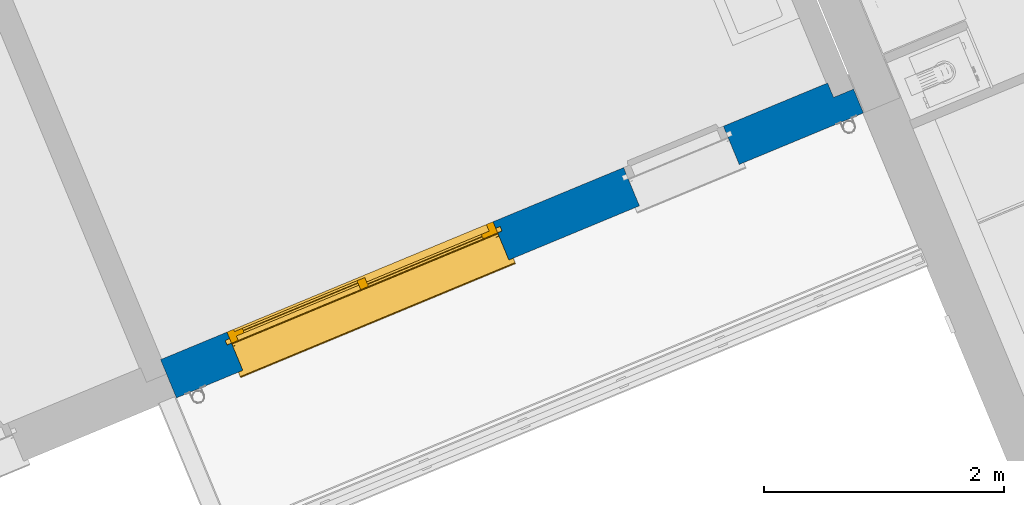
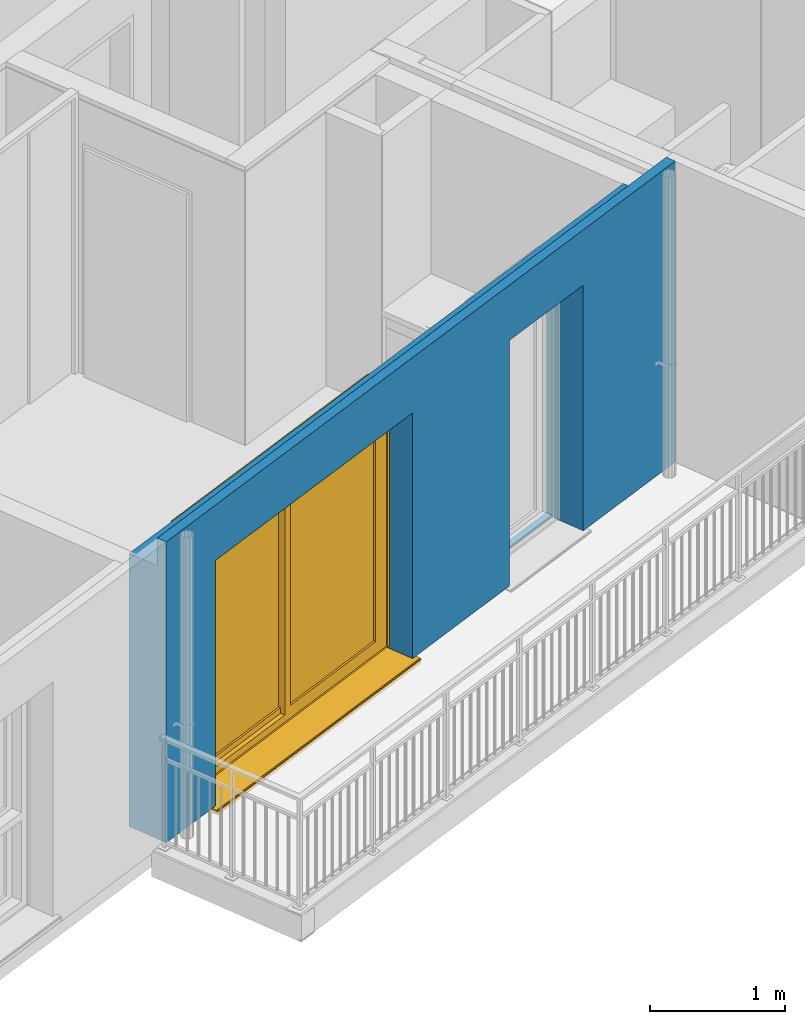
# One storey, part 7 of 90: 1 wall, 1 window, 2 openings.
"""IFC2X3 building model written with IfcOpenShell, lengths in metres."""

from ifc_helpers import new_model, entity, si_unit, converted_unit, derived_unit, money_unit, direction, frame, origin_with_axes, place, context, subcontext, project, spatial, open_shell, faceted_brep, surface_model, source, transform, mapped, material, material_list, type_object, element, fill, save


model = new_model("IFC2X3")

# Units and contexts
model_context = context("Model", 3, precision=1e-05, world=origin_with_axes(), true_north=direction((0.0, 1.0)))
body_context = subcontext(model_context, "Body", "Model", "MODEL_VIEW")
ifc_project = project(units=[si_unit("LENGTHUNIT", "METRE"), si_unit("AREAUNIT", "SQUARE_METRE"), si_unit("VOLUMEUNIT", "CUBIC_METRE"), converted_unit("PLANEANGLEUNIT", "DEGREE", entity("IfcPlaneAngleMeasure", 0.0174532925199), si_unit("PLANEANGLEUNIT", "RADIAN"), dimensions=[0, 0, 0, 0, 0, 0, 0]), si_unit("SOLIDANGLEUNIT", "STERADIAN"), money_unit("EUR"), converted_unit("TIMEUNIT", "Year", entity("IfcTimeMeasure", 31556926.0), si_unit("TIMEUNIT", "SECOND"), dimensions=[0, 0, 1, 0, 0, 0, 0]), si_unit("MASSUNIT", "GRAM", prefix="KILO"), si_unit("THERMODYNAMICTEMPERATUREUNIT", "DEGREE_CELSIUS"), si_unit("LUMINOUSINTENSITYUNIT", "LUMEN"), si_unit("ENERGYUNIT", "JOULE", prefix="MEGA"), derived_unit("THERMALCONDUCTANCEUNIT", [(si_unit("POWERUNIT", "WATT"), 1), (si_unit("LENGTHUNIT", "METRE"), -1), (si_unit("THERMODYNAMICTEMPERATUREUNIT", "KELVIN"), -1)]), derived_unit("SPECIFICHEATCAPACITYUNIT", [(si_unit("ENERGYUNIT", "JOULE"), 1), (si_unit("MASSUNIT", "GRAM", prefix="KILO"), -1), (si_unit("THERMODYNAMICTEMPERATUREUNIT", "KELVIN"), -1)]), derived_unit("MASSDENSITYUNIT", [(si_unit("MASSUNIT", "GRAM", prefix="KILO"), 1), (si_unit("VOLUMEUNIT", "CUBIC_METRE"), -1)])], contexts=[model_context])

# Site, building, storey
site_placement = place(None, origin_with_axes())
site = spatial("IfcSite", under=ifc_project, at=site_placement, Name="Site", CompositionType="ELEMENT")
building_placement = place(site_placement, origin_with_axes())
building = spatial("IfcBuilding", under=site, at=building_placement, Name="Bâtiment", CompositionType="ELEMENT")
storey_placement = place(building_placement, frame((0.0, 0.0, 2.72), z_axis=(0.0, 0.0, 1.0), x_axis=(1.0, 0.0, 0.0)))
storey = spatial("IfcBuildingStorey", under=building, at=storey_placement, Name="R+1", CompositionType="ELEMENT", Elevation=2.72)

# Wall, openings, window
ifc_material_1 = material(Name="Finition int - Plaque de plâtre")
ifc_material_2 = material(Name="Isolation - Polystyrène extrudé")
ifc_material_3 = material(Name="Bloc ELITHERM")
ifc_material_4 = material(Name="Isolation - Polystyrène expansé")
ifc_material_5 = material(Name="Mortier")
ifc_material_6 = material(Name="Béton cellulaire")
ifc_material_7 = material(Name="Finition ext - Crépis")
ifc_material_list = material_list([ifc_material_1, ifc_material_2, ifc_material_3, ifc_material_4, ifc_material_5, ifc_material_6, ifc_material_7])
wall_type = type_object("IfcWallType", Name="Mur ALKERN + planelle 25 345 x 2720", PredefinedType="USERDEFINED")
wall_placement = place(storey_placement, frame((-27.3367270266, -27.0787857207, 0.0), z_axis=(0.0, 0.0, 1.0), x_axis=(0.923701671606, 0.383112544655, 0.0)))
wall = element("IfcWall", 1, at=wall_placement, inside=storey, type_object=wall_type, material=ifc_material_list, Name="Mue bloc ALKERN isolé", ObjectType="SOLIDWALL", context=body_context, shape_type="Brep", body=[
    faceted_brep([(0.0, 0.334999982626, 0.0), (6.01608839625, 0.334999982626, 0.0), (6.01608839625, 0.334999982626, 2.47000000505), (0.0, 0.334999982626, 2.47000000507), (0.598463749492, 0.334999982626, 2.22), (0.598463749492, 0.334999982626, 2.4), (2.99846374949, 0.334999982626, 2.4), (2.99846374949, 0.334999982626, 2.22), (2.99846374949, 0.334999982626, 0.02), (0.598463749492, 0.334999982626, 0.02), (4.17589093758, 0.334999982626, 2.22), (4.17589093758, 0.334999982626, 2.4), (5.07589093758, 0.334999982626, 2.4), (5.07589093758, 0.334999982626, 2.22), (5.07589093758, 0.334999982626, 0.02), (4.17589093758, 0.334999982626, 0.02), (0.0, 0.344999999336, 0.0), (6.01608839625, 0.344999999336, 0.0), (6.01608839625, 0.344999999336, 2.47000000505), (0.0, 0.344999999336, 2.47000000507), (0.598463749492, 0.344999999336, 2.22), (0.598463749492, 0.344999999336, 2.4), (0.598463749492, 0.344999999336, 0.02), (2.99846374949, 0.344999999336, 2.4), (2.99846374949, 0.344999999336, 2.22), (2.99846374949, 0.344999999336, 0.02), (4.17589093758, 0.344999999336, 2.22), (4.17589093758, 0.344999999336, 2.4), (4.17589093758, 0.344999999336, 0.02), (5.07589093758, 0.344999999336, 2.4), (5.07589093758, 0.344999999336, 2.22), (5.07589093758, 0.344999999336, 0.02)], [[[0, 1, 2, 3], [4, 5, 6, 7, 8, 9], [10, 11, 12, 13, 14, 15]], [[16, 17, 1, 0]], [[17, 18, 2, 1]], [[3, 2, 18, 19]], [[16, 0, 3, 19]], [[20, 21, 5, 4, 9, 22]], [[21, 23, 6, 5]], [[7, 6, 23, 24, 25, 8]], [[22, 9, 8, 25]], [[26, 27, 11, 10, 15, 28]], [[12, 11, 27, 29]], [[13, 12, 29, 30, 31, 14]], [[14, 31, 28, 15]], [[19, 18, 17, 16], [21, 20, 22, 25, 24, 23], [27, 26, 28, 31, 30, 29]]]),
    faceted_brep([(5.07589093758, 0.286, 0.02), (5.07589093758, 0.286, 0.0), (5.07589093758, 0.215000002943, 0.0), (5.07589093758, 0.215000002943, 0.02), (5.07589093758, 0.215, 2.22), (5.07589093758, 0.215, 2.4), (5.07589093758, 0.334999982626, 2.4), (5.07589093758, 0.334999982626, 2.22), (5.07589093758, 0.334999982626, 0.02), (4.17589093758, 0.286, 0.02), (4.17589093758, 0.286, 0.0), (4.17589093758, 0.215000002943, 0.0), (2.99846374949, 0.215000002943, 0.0), (2.99846374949, 0.286, 0.0), (0.598463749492, 0.286, 0.0), (0.598463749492, 0.215000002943, 0.0), (0.0, 0.215000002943, 0.0), (0.0, 0.334999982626, 0.0), (6.01608839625, 0.334999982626, 0.0), (6.01608839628, 0.215000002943, 0.0), (4.17589093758, 0.215000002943, 0.02), (4.17589093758, 0.215, 2.22), (4.17589093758, 0.215, 2.4), (6.01608839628, 0.215000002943, 2.47000000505), (0.0, 0.215000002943, 2.47000000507), (0.598463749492, 0.215000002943, 0.02), (0.598463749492, 0.215, 2.22), (0.598463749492, 0.215, 2.4), (2.99846374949, 0.215, 2.4), (2.99846374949, 0.215, 2.22), (2.99846374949, 0.215000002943, 0.02), (4.17589093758, 0.334999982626, 2.4), (0.0, 0.334999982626, 2.47000000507), (6.01608839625, 0.334999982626, 2.47000000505), (2.99846374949, 0.334999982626, 0.02), (2.99846374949, 0.334999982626, 2.22), (2.99846374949, 0.334999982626, 2.4), (0.598463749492, 0.334999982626, 2.4), (0.598463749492, 0.334999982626, 2.22), (0.598463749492, 0.334999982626, 0.02), (4.17589093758, 0.334999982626, 2.22), (4.17589093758, 0.334999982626, 0.02), (2.99846374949, 0.286, 0.02), (0.598463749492, 0.286, 0.02)], [[[0, 1, 2, 3, 4, 5, 6, 7, 8]], [[0, 9, 10, 1]], [[10, 11, 12, 13, 14, 15, 16, 17, 18, 19, 2, 1]], [[11, 20, 21, 22, 5, 4, 3, 2, 19, 23, 24, 16, 15, 25, 26, 27, 28, 29, 30, 12]], [[22, 31, 6, 5]], [[32, 33, 18, 17], [34, 35, 36, 37, 38, 39], [8, 7, 6, 31, 40, 41]], [[9, 0, 8, 41]], [[20, 11, 10, 9, 41, 40, 31, 22, 21]], [[36, 35, 34, 42, 13, 12, 30, 29, 28]], [[42, 43, 14, 13]], [[37, 27, 26, 25, 15, 14, 43, 39, 38]], [[17, 16, 24, 32]], [[18, 33, 23, 19]], [[24, 23, 33, 32]], [[27, 37, 36, 28]], [[43, 42, 34, 39]]]),
    faceted_brep([(5.07589093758, 0.015, 0.02), (5.07589093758, 0.015, 0.0), (6.19608837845, 0.015, 0.0), (6.19608837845, 0.015, 2.47000000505), (0.0, 0.015, 2.47000000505), (0.0, 0.015, 0.0), (0.598463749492, 0.015, 0.0), (0.598463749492, 0.015, 0.02), (0.598463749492, 0.015, 2.22), (2.99846374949, 0.015, 2.22), (2.99846374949, 0.015, 0.02), (2.99846374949, 0.015, 0.0), (4.17589093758, 0.015, 0.0), (4.17589093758, 0.015, 0.02), (4.17589093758, 0.015, 2.22), (5.07589093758, 0.015, 2.22), (5.07589093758, 0.215000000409, 0.02), (5.07589093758, 0.215000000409, 0.0), (6.1960883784, 0.215000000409, 0.0), (6.1960883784, 0.215000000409, 2.47000000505), (6.19608837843, 0.0830000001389, 2.47000000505), (0.0, 0.0830000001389, 2.47000000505), (0.0, 0.215000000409, 2.47000000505), (0.0, 0.215000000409, 0.0), (0.598463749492, 0.215000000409, 0.0), (0.598463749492, 0.215000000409, 0.02), (0.598463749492, 0.215000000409, 2.22), (2.99846374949, 0.215000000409, 2.22), (2.99846374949, 0.215000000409, 0.02), (2.99846374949, 0.215000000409, 0.0), (4.17589093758, 0.215000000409, 0.0), (4.17589093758, 0.215000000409, 0.02), (4.17589093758, 0.215000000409, 2.22), (5.07589093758, 0.215000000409, 2.22)], [[[0, 1, 2, 3, 4, 5, 6, 7, 8, 9, 10, 11, 12, 13, 14, 15]], [[1, 0, 16, 17]], [[1, 17, 18, 2]], [[2, 18, 19, 20, 3]], [[4, 3, 20, 21]], [[21, 22, 23, 5, 4]], [[5, 23, 24, 6]], [[6, 24, 25, 7]], [[26, 8, 7, 25]], [[27, 9, 8, 26]], [[9, 27, 28, 10]], [[28, 29, 11, 10]], [[30, 12, 11, 29]], [[31, 13, 12, 30]], [[13, 31, 32, 14]], [[14, 32, 33, 15]], [[16, 0, 15, 33]], [[17, 16, 33, 32, 31, 30, 29, 28, 27, 26, 25, 24, 23, 22, 19, 18]], [[21, 20, 19, 22]]]),
    faceted_brep([(0.0, 0.063, 2.48000000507), (6.01608839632, 0.063, 2.48000000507), (6.01608839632, 0.063, 2.52), (6.19608839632, 0.063, 2.52), (6.19608839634, 0.063, 2.72000000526), (0.0, 0.063, 2.72000000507), (0.0, 0.083, 2.48000000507), (6.01608839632, 0.083, 2.48000000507), (6.01608839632, 0.0829999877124, 2.52), (6.19608839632, 0.0829999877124, 2.52), (6.19608839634, 0.0829999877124, 2.72000000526), (0.0, 0.083, 2.72000000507)], [[[0, 1, 2, 3, 4, 5]], [[6, 7, 1, 0]], [[8, 2, 1, 7]], [[8, 9, 3, 2]], [[4, 3, 9, 10]], [[11, 5, 4, 10]], [[11, 6, 0, 5]], [[9, 8, 7, 6, 11, 10]]]),
    faceted_brep([(0.0, 0.015, 2.47000000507), (6.19608837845, 0.015, 2.47000000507), (6.19608837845, 0.015, 2.48000000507), (0.0, 0.015, 2.48000000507), (0.0, 0.083, 2.47000000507), (6.19608837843, 0.083, 2.47000000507), (6.19608837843, 0.083, 2.48000000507), (0.0, 0.083, 2.48000000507)], [[[0, 1, 2, 3]], [[4, 5, 1, 0]], [[5, 6, 2, 1]], [[3, 2, 6, 7]], [[0, 3, 7, 4]], [[7, 6, 5, 4]]]),
    faceted_brep([(0.0, 0.015, 2.48000000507), (6.19608837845, 0.015, 2.48000000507), (6.19608837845, 0.015, 2.52), (6.19608839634, 0.015, 2.72000000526), (0.0, 0.015, 2.72000000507), (0.0, 0.0630000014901, 2.48000000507), (6.19608837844, 0.0630000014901, 2.48000000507), (6.19608837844, 0.0630000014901, 2.52), (6.19608839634, 0.0630000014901, 2.72000000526), (0.0, 0.0630000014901, 2.72000000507)], [[[0, 1, 2, 3, 4]], [[5, 6, 1, 0]], [[6, 7, 2, 1]], [[3, 2, 7, 8]], [[4, 3, 8, 9]], [[4, 9, 5, 0]], [[8, 7, 6, 5, 9]]]),
    faceted_brep([(5.07589093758, 0.0, 0.02), (5.07589093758, 0.0, 0.0), (6.19608837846, 0.0, 0.0), (6.19608837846, 5.21252374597e-10, 2.52), (6.19608839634, 5.21252374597e-10, 2.72000000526), (0.0, 0.0, 2.72000000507), (0.0, 0.0, 0.0), (0.598463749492, 0.0, 0.0), (0.598463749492, 0.0, 0.02), (0.598463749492, 0.0, 2.22), (2.99846374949, 0.0, 2.22), (2.99846374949, 0.0, 0.02), (2.99846374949, 0.0, 0.0), (4.17589093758, 0.0, 0.0), (4.17589093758, 0.0, 0.02), (4.17589093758, 0.0, 2.22), (5.07589093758, 0.0, 2.22), (5.07589093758, 0.014999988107, 0.02), (5.07589093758, 0.014999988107, 0.0), (6.19608837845, 0.014999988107, 0.0), (6.19608837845, 0.014999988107, 2.52), (6.19608839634, 0.014999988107, 2.72000000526), (0.0, 0.014999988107, 2.72000000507), (0.0, 0.014999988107, 0.0), (0.598463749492, 0.014999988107, 0.0), (0.598463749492, 0.014999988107, 0.02), (0.598463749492, 0.014999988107, 2.22), (2.99846374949, 0.014999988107, 2.22), (2.99846374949, 0.014999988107, 0.02), (2.99846374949, 0.014999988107, 0.0), (4.17589093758, 0.014999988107, 0.0), (4.17589093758, 0.014999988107, 0.02), (4.17589093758, 0.014999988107, 2.22), (5.07589093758, 0.014999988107, 2.22)], [[[0, 1, 2, 3, 4, 5, 6, 7, 8, 9, 10, 11, 12, 13, 14, 15, 16]], [[1, 0, 17, 18]], [[1, 18, 19, 2]], [[2, 19, 20, 3]], [[21, 4, 3, 20]], [[22, 5, 4, 21]], [[23, 6, 5, 22]], [[6, 23, 24, 7]], [[7, 24, 25, 8]], [[26, 9, 8, 25]], [[27, 10, 9, 26]], [[10, 27, 28, 11]], [[28, 29, 12, 11]], [[30, 13, 12, 29]], [[31, 14, 13, 30]], [[14, 31, 32, 15]], [[15, 32, 33, 16]], [[17, 0, 16, 33]], [[18, 17, 33, 32, 31, 30, 29, 28, 27, 26, 25, 24, 23, 22, 21, 20, 19]]]),
])
opening_1_placement = place(wall_placement, frame((1.79846374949, 0.0, 0.02), z_axis=(0.0, 0.0, 1.0), x_axis=(1.0, 0.0, 0.0)))
opening_1 = element("IfcOpeningElement", 2, at=opening_1_placement, cuts=wall, Name="MEN 55", context=body_context, shape_type="Brep", body=[
    faceted_brep([(1.2, 0.245, 0.0), (-1.2, 0.245, 0.0), (-1.2, 0.834999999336, 0.0), (1.2, 0.834999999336, 0.0), (1.2, 0.245, 2.2), (-1.2, 0.245, 2.2), (-1.2, 0.834999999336, 2.2), (1.2, 0.834999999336, 2.2)], [[[0, 1, 2, 3]], [[0, 4, 5, 1]], [[1, 5, 6, 2]], [[3, 2, 6, 7]], [[4, 0, 3, 7]], [[5, 4, 7, 6]]]),
    faceted_brep([(1.2, 0.245, 0.0), (1.2, 0.245, 2.2), (1.2, -0.344999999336, 2.2), (1.2, -0.344999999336, 0.0), (-1.2, 0.245, 0.0), (-1.2, 0.245, 2.2), (-1.2, -0.344999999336, 2.2), (-1.2, -0.344999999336, 0.0)], [[[0, 1, 2, 3]], [[0, 4, 5, 1]], [[1, 5, 6, 2]], [[3, 2, 6, 7]], [[4, 0, 3, 7]], [[5, 4, 7, 6]]]),
    faceted_brep([(1.2, 0.245, 0.0), (1.2, 0.245, 2.2), (1.2, -0.344999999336, 2.2), (1.2, -0.344999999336, 0.0), (-1.2, 0.245, 0.0), (-1.2, 0.245, 2.2), (-1.2, -0.344999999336, 2.2), (-1.2, -0.344999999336, 0.0)], [[[0, 1, 2, 3]], [[0, 4, 5, 1]], [[1, 5, 6, 2]], [[3, 2, 6, 7]], [[4, 0, 3, 7]], [[5, 4, 7, 6]]]),
    faceted_brep([(1.2, 0.215, 2.2), (-1.2, 0.215, 2.2), (-1.2, 0.804999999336, 2.2), (1.2, 0.804999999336, 2.2), (1.2, 0.215, 2.38), (-1.2, 0.215, 2.38), (-1.2, 0.804999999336, 2.38), (1.2, 0.804999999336, 2.38)], [[[0, 1, 2, 3]], [[0, 4, 5, 1]], [[1, 5, 6, 2]], [[3, 2, 6, 7]], [[4, 0, 3, 7]], [[5, 4, 7, 6]]]),
    faceted_brep([(1.2, 0.286, 0.0), (-1.2, 0.286, 0.0), (-1.2, -0.303999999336, 0.0), (1.2, -0.303999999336, 0.0), (1.2, 0.286, -0.06), (-1.2, 0.286, -0.06), (-1.2, -0.303999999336, -0.06), (1.2, -0.303999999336, -0.06)], [[[0, 1, 2, 3]], [[0, 4, 5, 1]], [[1, 5, 6, 2]], [[3, 2, 6, 7]], [[4, 0, 3, 7]], [[5, 4, 7, 6]]]),
])
opening_2_placement = place(wall_placement, frame((4.62589093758, 0.0, 0.02), z_axis=(0.0, 0.0, 1.0), x_axis=(1.0, 0.0, 0.0)))
element("IfcOpeningElement", 3, at=opening_2_placement, cuts=wall, Name="MEN 56", context=body_context, shape_type="Brep", body=[
    faceted_brep([(-0.45, 0.834999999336, 0.0), (0.45, 0.834999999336, 0.0), (0.45, 0.245, 0.0), (-0.45, 0.245, 0.0), (-0.45, 0.834999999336, 2.2), (0.45, 0.834999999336, 2.2), (0.45, 0.245, 2.2), (-0.45, 0.245, 2.2)], [[[0, 1, 2, 3]], [[0, 4, 5, 1]], [[1, 5, 6, 2]], [[3, 2, 6, 7]], [[4, 0, 3, 7]], [[5, 4, 7, 6]]]),
    faceted_brep([(-0.45, -0.344999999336, 0.0), (-0.45, -0.344999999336, 2.2), (-0.45, 0.245, 2.2), (-0.45, 0.245, 0.0), (0.45, -0.344999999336, 0.0), (0.45, -0.344999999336, 2.2), (0.45, 0.245, 2.2), (0.45, 0.245, 0.0)], [[[0, 1, 2, 3]], [[0, 4, 5, 1]], [[1, 5, 6, 2]], [[3, 2, 6, 7]], [[4, 0, 3, 7]], [[5, 4, 7, 6]]]),
    faceted_brep([(-0.45, -0.344999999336, 0.0), (-0.45, -0.344999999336, 2.2), (-0.45, 0.245, 2.2), (-0.45, 0.245, 0.0), (0.45, -0.344999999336, 0.0), (0.45, -0.344999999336, 2.2), (0.45, 0.245, 2.2), (0.45, 0.245, 0.0)], [[[0, 1, 2, 3]], [[0, 4, 5, 1]], [[1, 5, 6, 2]], [[3, 2, 6, 7]], [[4, 0, 3, 7]], [[5, 4, 7, 6]]]),
    faceted_brep([(-0.45, 0.804999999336, 2.2), (0.45, 0.804999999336, 2.2), (0.45, 0.215, 2.2), (-0.45, 0.215, 2.2), (-0.45, 0.804999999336, 2.38), (0.45, 0.804999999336, 2.38), (0.45, 0.215, 2.38), (-0.45, 0.215, 2.38)], [[[0, 1, 2, 3]], [[0, 4, 5, 1]], [[1, 5, 6, 2]], [[3, 2, 6, 7]], [[4, 0, 3, 7]], [[5, 4, 7, 6]]]),
    faceted_brep([(-0.45, -0.303999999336, 0.0), (0.45, -0.303999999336, 0.0), (0.45, 0.286, 0.0), (-0.45, 0.286, 0.0), (-0.45, -0.303999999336, -0.06), (0.45, -0.303999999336, -0.06), (0.45, 0.286, -0.06), (-0.45, 0.286, -0.06)], [[[0, 1, 2, 3]], [[0, 4, 5, 1]], [[1, 5, 6, 2]], [[3, 2, 6, 7]], [[4, 0, 3, 7]], [[5, 4, 7, 6]]]),
])
window_style = type_object("IfcWindowStyle", Name="Baie générique 2017 v2", ConstructionType="NOTDEFINED", OperationType="NOTDEFINED", ParameterTakesPrecedence=False, Sizeable=False)
shared_shape = source(origin_with_axes(), body_context, "Body", "SurfaceModel", [
    faceted_brep([(1.2, 0.1, 0.0), (1.2, 0.0, 0.0), (-1.2, 0.0, 0.0), (-1.2, 0.1, 0.0), (1.2, 0.1, 2.2), (1.2, 0.0, 2.2), (-1.2, 0.0, 2.2), (1.14, 0.0, 0.05), (-1.14, 0.0, 0.05), (-1.14, 0.0, 2.15), (1.14, 0.0, 2.15), (-1.2, 0.1, 2.2), (1.14, 0.1, 0.05), (1.14, 0.1, 2.15), (-1.14, 0.1, 2.15), (-1.14, 0.1, 0.05)], [[[0, 1, 2, 3]], [[4, 5, 1, 0]], [[1, 5, 6, 2], [7, 8, 9, 10]], [[3, 2, 6, 11]], [[0, 3, 11, 4], [12, 13, 14, 15]], [[11, 6, 5, 4]], [[15, 8, 7, 12]], [[14, 9, 8, 15]], [[13, 10, 9, 14]], [[12, 7, 10, 13]]]),
    faceted_brep([(1.14, 0.04, 0.05), (-0.035, 0.04, 0.05), (-0.035, 0.04, 2.15), (1.14, 0.04, 2.15), (0.035, 0.04, 2.08), (0.035, 0.04, 0.1), (1.07, 0.04, 0.1), (1.07, 0.04, 2.08), (-0.035, 0.02, 0.05), (1.14, 0.02, 0.05), (1.14, 0.0, 0.05), (-0.035, 0.0, 0.05), (-0.035, 0.02, 2.15), (-0.035, 0.0, 2.15), (1.14, 0.0, 2.15), (1.14, 0.02, 2.15), (0.035, 0.0, 2.08), (0.035, 0.0, 0.1), (1.07, 0.0, 0.1), (1.07, 0.0, 2.08)], [[[0, 1, 2, 3], [4, 5, 6, 7]], [[8, 1, 0, 9, 10, 11]], [[12, 2, 1, 8, 11, 13]], [[13, 14, 15, 3, 2, 12]], [[14, 10, 9, 0, 3, 15]], [[4, 16, 17, 5]], [[17, 18, 6, 5]], [[18, 19, 7, 6]], [[7, 19, 16, 4]], [[13, 11, 10, 14], [17, 16, 19, 18]]]),
    surface_model("IfcShellBasedSurfaceModel", [(1.14, 0.04, 0.05), (-0.035, 0.04, 0.05), (-0.035, 0.04, 2.15), (1.14, 0.04, 2.15), (1.07, 0.04, 0.1), (1.07, 0.04, 2.08), (0.035, 0.04, 2.08), (0.035, 0.04, 0.1)], [open_shell([[[0, 1, 2, 3], [4, 5, 6, 7]]])]),
    surface_model("IfcShellBasedSurfaceModel", [(1.14, 0.0, 0.05), (-0.035, 0.0, 0.05), (-0.035, 0.0, 2.15), (1.14, 0.0, 2.15), (1.07, 0.0, 0.1), (1.07, 0.0, 2.08), (0.035, 0.0, 2.08), (0.035, 0.0, 0.1)], [open_shell([[[0, 1, 2, 3], [4, 5, 6, 7]]])]),
    faceted_brep([(1.07, 0.0225, 0.1), (1.07, 0.0175, 0.1), (0.035, 0.0175, 0.1), (0.035, 0.0225, 0.1), (1.07, 0.0225, 2.08), (1.07, 0.0175, 2.08), (0.035, 0.0175, 2.08), (0.035, 0.0225, 2.08)], [[[0, 1, 2, 3]], [[4, 5, 1, 0]], [[1, 5, 6, 2]], [[3, 2, 6, 7]], [[0, 3, 7, 4]], [[7, 6, 5, 4]]]),
    faceted_brep([(0.035, 0.08, 0.05), (-1.14, 0.08, 0.05), (-1.14, 0.08, 2.15), (0.035, 0.08, 2.15), (-1.07, 0.08, 2.08), (-1.07, 0.08, 0.1), (-0.035, 0.08, 0.1), (-0.035, 0.08, 2.08), (-1.14, 0.06, 0.05), (0.035, 0.06, 0.05), (0.035, 0.04, 0.05), (-1.14, 0.04, 0.05), (-1.14, 0.06, 2.15), (-1.14, 0.04, 2.15), (0.035, 0.04, 2.15), (0.035, 0.06, 2.15), (-1.07, 0.04, 2.08), (-1.07, 0.04, 0.1), (-0.035, 0.04, 0.1), (-0.035, 0.04, 2.08)], [[[0, 1, 2, 3], [4, 5, 6, 7]], [[8, 1, 0, 9, 10, 11]], [[12, 2, 1, 8, 11, 13]], [[13, 14, 15, 3, 2, 12]], [[14, 10, 9, 0, 3, 15]], [[4, 16, 17, 5]], [[17, 18, 6, 5]], [[18, 19, 7, 6]], [[7, 19, 16, 4]], [[13, 11, 10, 14], [17, 16, 19, 18]]]),
    surface_model("IfcShellBasedSurfaceModel", [(0.035, 0.08, 0.05), (-1.14, 0.08, 0.05), (-1.14, 0.08, 2.15), (0.035, 0.08, 2.15), (-0.035, 0.08, 0.1), (-0.035, 0.08, 2.08), (-1.07, 0.08, 2.08), (-1.07, 0.08, 0.1)], [open_shell([[[0, 1, 2, 3], [4, 5, 6, 7]]])]),
    surface_model("IfcShellBasedSurfaceModel", [(0.035, 0.04, 0.05), (-1.14, 0.04, 0.05), (-1.14, 0.04, 2.15), (0.035, 0.04, 2.15), (-0.035, 0.04, 0.1), (-0.035, 0.04, 2.08), (-1.07, 0.04, 2.08), (-1.07, 0.04, 0.1)], [open_shell([[[0, 1, 2, 3], [4, 5, 6, 7]]])]),
    faceted_brep([(-0.035, 0.0625, 0.1), (-0.035, 0.0575, 0.1), (-1.07, 0.0575, 0.1), (-1.07, 0.0625, 0.1), (-0.035, 0.0625, 2.08), (-0.035, 0.0575, 2.08), (-1.07, 0.0575, 2.08), (-1.07, 0.0625, 2.08)], [[[0, 1, 2, 3]], [[4, 5, 1, 0]], [[1, 5, 6, 2]], [[3, 2, 6, 7]], [[0, 3, 7, 4]], [[7, 6, 5, 4]]]),
    faceted_brep([(1.2, -0.03, 0.0), (1.2, -0.03, 2.2), (1.175, -0.03, 2.2), (1.175, -0.03, 0.0), (1.2, -0.002, 0.0), (1.2, -0.002, 2.2), (1.175, -0.002, 2.2), (1.175, -0.004, 2.2), (1.198, -0.004, 2.2), (1.198, -0.028, 2.2), (1.175, -0.028, 2.2), (1.175, -0.028, 0.0), (1.198, -0.028, 0.0), (1.198, -0.004, 0.0), (1.175, -0.004, 0.0), (1.175, -0.002, 0.0)], [[[0, 1, 2, 3]], [[4, 5, 1, 0]], [[1, 5, 6, 7, 8, 9, 10, 2]], [[3, 2, 10, 11]], [[0, 3, 11, 12, 13, 14, 15, 4]], [[15, 6, 5, 4]], [[14, 7, 6, 15]], [[13, 8, 7, 14]], [[12, 9, 8, 13]], [[11, 10, 9, 12]]]),
    faceted_brep([(-1.2, -0.03, 0.0), (-1.175, -0.03, 0.0), (-1.175, -0.03, 2.2), (-1.2, -0.03, 2.2), (-1.2, -0.002, 0.0), (-1.175, -0.002, 0.0), (-1.175, -0.004, 0.0), (-1.198, -0.004, 0.0), (-1.198, -0.028, 0.0), (-1.175, -0.028, 0.0), (-1.175, -0.028, 2.2), (-1.198, -0.028, 2.2), (-1.198, -0.004, 2.2), (-1.175, -0.004, 2.2), (-1.175, -0.002, 2.2), (-1.2, -0.002, 2.2)], [[[0, 1, 2, 3]], [[0, 4, 5, 6, 7, 8, 9, 1]], [[1, 9, 10, 2]], [[3, 2, 10, 11, 12, 13, 14, 15]], [[4, 0, 3, 15]], [[5, 4, 15, 14]], [[6, 5, 14, 13]], [[7, 6, 13, 12]], [[8, 7, 12, 11]], [[9, 8, 11, 10]]]),
    faceted_brep([(-1.198, -0.028, 2.2), (-1.198, -0.028, 2.378), (1.198, -0.028, 2.378), (1.198, -0.028, 2.2), (-1.198, -0.03, 2.2), (-1.198, -0.03, 2.38), (-1.198, 0.17, 2.38), (-1.198, 0.17, 2.2), (-1.198, 0.168, 2.2), (-1.198, 0.168, 2.378), (1.198, 0.168, 2.378), (1.198, 0.168, 2.2), (1.198, 0.17, 2.2), (1.198, 0.17, 2.38), (1.198, -0.03, 2.38), (1.198, -0.03, 2.2)], [[[0, 1, 2, 3]], [[0, 4, 5, 6, 7, 8, 9, 1]], [[1, 9, 10, 2]], [[3, 2, 10, 11, 12, 13, 14, 15]], [[4, 0, 3, 15]], [[5, 4, 15, 14]], [[6, 5, 14, 13]], [[7, 6, 13, 12]], [[8, 7, 12, 11]], [[9, 8, 11, 10]]]),
    faceted_brep([(-1.198, 0.0724697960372, 2.27436337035), (-1.198, 0.0555495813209, 2.27050144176), (-1.198, 0.041980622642, 2.28132232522), (-1.198, 0.041980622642, 2.29867767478), (-1.198, 0.0555495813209, 2.30949855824), (-1.198, 0.0724697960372, 2.30563662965), (-1.198, 0.08, 2.29), (1.198, 0.0724697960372, 2.27436337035), (1.198, 0.0555495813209, 2.27050144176), (1.198, 0.041980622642, 2.28132232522), (1.198, 0.041980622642, 2.29867767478), (1.198, 0.0555495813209, 2.30949855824), (1.198, 0.0724697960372, 2.30563662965), (1.198, 0.08, 2.29)], [[[0, 1, 2, 3, 4, 5, 6]], [[1, 0, 7, 8]], [[2, 1, 8, 9]], [[3, 2, 9, 10]], [[4, 3, 10, 11]], [[5, 4, 11, 12]], [[6, 5, 12, 13]], [[0, 6, 13, 7]], [[7, 13, 12, 11, 10, 9, 8]]]),
    faceted_brep([(-1.188, 0.130275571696, 2.25615706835), (-1.188, 0.108632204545, 2.22901714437), (-1.188, 0.0773566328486, 2.21395562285), (-1.188, 0.0426433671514, 2.21395562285), (-1.188, 0.011367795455, 2.22901714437), (-1.188, -0.0102755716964, 2.25615706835), (-1.188, -0.018, 2.29), (-1.188, -0.0102755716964, 2.32384293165), (-1.188, 0.011367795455, 2.35098285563), (-1.188, 0.0426433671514, 2.36604437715), (-1.188, 0.0773566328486, 2.36604437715), (-1.188, 0.108632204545, 2.35098285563), (-1.188, 0.130275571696, 2.32384293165), (-1.188, 0.138, 2.29), (1.188, 0.130275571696, 2.25615706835), (1.188, 0.108632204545, 2.22901714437), (1.188, 0.0773566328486, 2.21395562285), (1.188, 0.0426433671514, 2.21395562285), (1.188, 0.011367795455, 2.22901714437), (1.188, -0.0102755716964, 2.25615706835), (1.188, -0.018, 2.29), (1.188, -0.0102755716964, 2.32384293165), (1.188, 0.011367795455, 2.35098285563), (1.188, 0.0426433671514, 2.36604437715), (1.188, 0.0773566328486, 2.36604437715), (1.188, 0.108632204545, 2.35098285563), (1.188, 0.130275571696, 2.32384293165), (1.188, 0.138, 2.29)], [[[0, 1, 2, 3, 4, 5, 6, 7, 8, 9, 10, 11, 12, 13]], [[1, 0, 14, 15]], [[2, 1, 15, 16]], [[3, 2, 16, 17]], [[4, 3, 17, 18]], [[5, 4, 18, 19]], [[6, 5, 19, 20]], [[7, 6, 20, 21]], [[8, 7, 21, 22]], [[9, 8, 22, 23]], [[10, 9, 23, 24]], [[11, 10, 24, 25]], [[12, 11, 25, 26]], [[13, 12, 26, 27]], [[0, 13, 27, 14]], [[14, 27, 26, 25, 24, 23, 22, 21, 20, 19, 18, 17, 16, 15]]]),
    faceted_brep([(-1.2, 0.17, 2.2), (-1.2, 0.17, 2.38), (-1.198, 0.17, 2.38), (-1.198, 0.17, 2.2), (-1.2, -0.03, 2.2), (-1.2, -0.03, 2.38), (-1.198, -0.03, 2.38), (-1.198, -0.03, 2.2)], [[[0, 1, 2, 3]], [[0, 4, 5, 1]], [[1, 5, 6, 2]], [[3, 2, 6, 7]], [[4, 0, 3, 7]], [[5, 4, 7, 6]]]),
    faceted_brep([(1.198, 0.17, 2.2), (1.198, 0.17, 2.38), (1.2, 0.17, 2.38), (1.2, 0.17, 2.2), (1.198, -0.03, 2.2), (1.198, -0.03, 2.38), (1.2, -0.03, 2.38), (1.2, -0.03, 2.2)], [[[0, 1, 2, 3]], [[0, 4, 5, 1]], [[1, 5, 6, 2]], [[3, 2, 6, 7]], [[4, 0, 3, 7]], [[5, 4, 7, 6]]]),
    faceted_brep([(-1.198, -0.004, 2.2), (-1.198, 0.168, 2.2), (1.198, 0.168, 2.2), (1.198, -0.004, 2.2), (-1.198, -0.004, 2.202), (-1.198, 0.168, 2.202), (1.198, 0.168, 2.202), (1.198, -0.004, 2.202)], [[[0, 1, 2, 3]], [[0, 4, 5, 1]], [[1, 5, 6, 2]], [[3, 2, 6, 7]], [[4, 0, 3, 7]], [[5, 4, 7, 6]]]),
    faceted_brep([(-1.188, -0.006, 2.2), (-1.188, -0.006, 2.29), (1.188, -0.006, 2.29), (1.188, -0.006, 2.2), (-1.188, -0.026, 2.2), (-1.188, -0.026, 2.29), (1.188, -0.026, 2.29), (1.188, -0.026, 2.2)], [[[0, 1, 2, 3]], [[1, 0, 4, 5]], [[2, 1, 5, 6]], [[3, 2, 6, 7]], [[4, 0, 3, 7]], [[5, 4, 7, 6]]]),
    faceted_brep([(-1.2, -0.00167949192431, -0.01), (1.2, -0.00167949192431, -0.01), (1.2, 0.0, -0.00373205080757), (1.24, 0.0, -0.00373205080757), (1.24, 0.001, 0.0), (-1.24, 0.001, 0.0), (-1.24, 0.0, -0.00373205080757), (-1.2, 0.0, -0.00373205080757), (-1.2, -0.009, -0.0173205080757), (1.2, -0.009, -0.0173205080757), (1.2, -0.245, -0.02), (1.2, -0.245, -0.06), (1.2, 0.0, -0.06), (1.2, -0.019, -0.02), (1.24, 0.0, -0.06), (1.24, 0.041, -0.06), (1.24, 0.041, 0.0), (-1.24, 0.041, 0.0), (-1.24, 0.041, -0.06), (-1.24, 0.0, -0.06), (-1.2, 0.0, -0.06), (-1.2, -0.245, -0.06), (-1.2, -0.245, -0.02), (-1.2, -0.019, -0.02), (1.24, -0.245, -0.02), (1.24, -0.245, -0.06), (1.24, -0.275, -0.06), (-1.24, -0.275, -0.06), (-1.24, -0.245, -0.06), (-1.24, -0.245, -0.02), (-1.24, -0.285, -0.02), (1.24, -0.285, -0.02), (1.24, -0.295, -0.03), (1.24, -0.295, -0.06), (1.24, -0.285, -0.06), (1.24, -0.285, -0.05), (1.24, -0.275, -0.05), (1.24, -0.292071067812, -0.0229289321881), (-1.24, -0.275, -0.05), (-1.24, -0.285, -0.05), (-1.24, -0.285, -0.06), (-1.24, -0.295, -0.06), (-1.24, -0.295, -0.03), (-1.24, -0.292071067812, -0.0229289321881)], [[[0, 1, 2, 3, 4, 5, 6, 7]], [[8, 9, 1, 0]], [[10, 11, 12, 2, 1, 9, 13]], [[3, 2, 12, 14]], [[4, 3, 14, 15, 16]], [[16, 17, 5, 4]], [[6, 5, 17, 18, 19]], [[19, 20, 7, 6]], [[7, 20, 21, 22, 23, 8, 0]], [[23, 13, 9, 8]], [[10, 24, 25, 11]], [[21, 20, 19, 18, 15, 14, 12, 11, 25, 26, 27, 28]], [[22, 29, 30, 31, 24, 10, 13, 23]], [[15, 18, 17, 16]], [[22, 21, 28, 29]], [[32, 33, 34, 35, 36, 26, 25, 24, 31, 37]], [[36, 38, 27, 26]], [[28, 27, 38, 39, 40, 41, 42, 43, 30, 29]], [[31, 30, 43, 37]], [[32, 42, 41, 33]], [[33, 41, 40, 34]], [[34, 40, 39, 35]], [[35, 39, 38, 36]], [[37, 43, 42, 32]]]),
])
window_placement = place(opening_1_placement, frame((-1.2, 0.0, 0.0), z_axis=(0.0, 0.0, 1.0), x_axis=(1.0, 0.0, 0.0)))
window = element("IfcWindow", 4, at=window_placement, inside=storey, type_object=window_style, Name="MEN 55", ObjectType="WINDOW", OverallHeight=2.2, OverallWidth=2.4, context=body_context, shape_type="MappedRepresentation", body=[
    mapped(shared_shape, transform((1.2, 0.245, 0.0))),
])
fill(opening_1, window)

save(model, "model.ifc")
